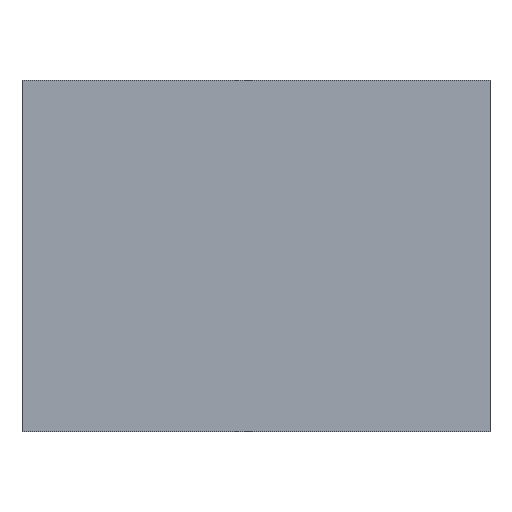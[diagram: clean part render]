
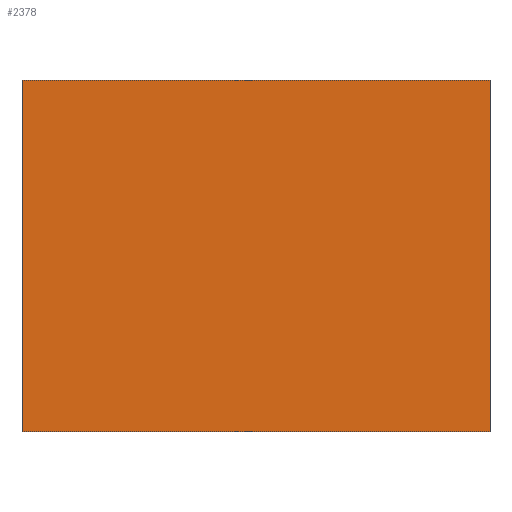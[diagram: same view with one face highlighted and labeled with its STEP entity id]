
A CAD part, front view. The second image highlights one B-rep face of the part: STEP entity #2378.
In plain terms, the highlighted planar face has unit normal (0, -1, 0).
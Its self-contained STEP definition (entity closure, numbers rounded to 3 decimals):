
#68 = DIRECTION ( 'NONE',  ( 0., 0., 1. ) ) ;
#72 = VECTOR ( 'NONE', #1410, 1000. ) ;
#89 = DIRECTION ( 'NONE',  ( -1., 0., 0. ) ) ;
#221 = VERTEX_POINT ( 'NONE', #1142 ) ;
#243 = EDGE_LOOP ( 'NONE', ( #1085, #1235, #1614, #1661 ) ) ;
#296 = LINE ( 'NONE', #2031, #2400 ) ;
#341 = PLANE ( 'NONE',  #2611 ) ;
#487 = CARTESIAN_POINT ( 'NONE',  ( -80., 0., -60. ) ) ;
#714 = VERTEX_POINT ( 'NONE', #1248 ) ;
#859 = CARTESIAN_POINT ( 'NONE',  ( 80., 0., 60. ) ) ;
#961 = DIRECTION ( 'NONE',  ( 0., 1., 0. ) ) ;
#1024 = EDGE_CURVE ( 'NONE', #714, #1392, #1484, .T. ) ;
#1085 = ORIENTED_EDGE ( 'NONE', *, *, #1377, .F. ) ;
#1142 = CARTESIAN_POINT ( 'NONE',  ( 80., 0., -60. ) ) ;
#1170 = CARTESIAN_POINT ( 'NONE',  ( -80., 0., 60. ) ) ;
#1235 = ORIENTED_EDGE ( 'NONE', *, *, #1756, .F. ) ;
#1248 = CARTESIAN_POINT ( 'NONE',  ( -80., 0., -60. ) ) ;
#1377 = EDGE_CURVE ( 'NONE', #2114, #221, #296, .T. ) ;
#1392 = VERTEX_POINT ( 'NONE', #1170 ) ;
#1410 = DIRECTION ( 'NONE',  ( 1., 0., 0. ) ) ;
#1484 = LINE ( 'NONE', #487, #2573 ) ;
#1569 = LINE ( 'NONE', #1894, #2051 ) ;
#1614 = ORIENTED_EDGE ( 'NONE', *, *, #1024, .F. ) ;
#1615 = CARTESIAN_POINT ( 'NONE',  ( -80., 0., 60. ) ) ;
#1631 = LINE ( 'NONE', #1615, #72 ) ;
#1661 = ORIENTED_EDGE ( 'NONE', *, *, #1804, .F. ) ;
#1756 = EDGE_CURVE ( 'NONE', #1392, #2114, #1631, .T. ) ;
#1804 = EDGE_CURVE ( 'NONE', #221, #714, #1569, .T. ) ;
#1823 = DIRECTION ( 'NONE',  ( 0., 0., -1. ) ) ;
#1894 = CARTESIAN_POINT ( 'NONE',  ( -80., 0., -60. ) ) ;
#2031 = CARTESIAN_POINT ( 'NONE',  ( 80., 0., -60. ) ) ;
#2051 = VECTOR ( 'NONE', #89, 1000. ) ;
#2114 = VERTEX_POINT ( 'NONE', #859 ) ;
#2179 = CARTESIAN_POINT ( 'NONE',  ( 0., 0., 0. ) ) ;
#2278 = FACE_OUTER_BOUND ( 'NONE', #243, .T. ) ;
#2378 = ADVANCED_FACE ( 'NONE', ( #2278 ), #341, .F. ) ;
#2383 = DIRECTION ( 'NONE',  ( 0., 0., 1. ) ) ;
#2400 = VECTOR ( 'NONE', #1823, 1000. ) ;
#2573 = VECTOR ( 'NONE', #68, 1000. ) ;
#2611 = AXIS2_PLACEMENT_3D ( 'NONE', #2179, #961, #2383 ) ;
